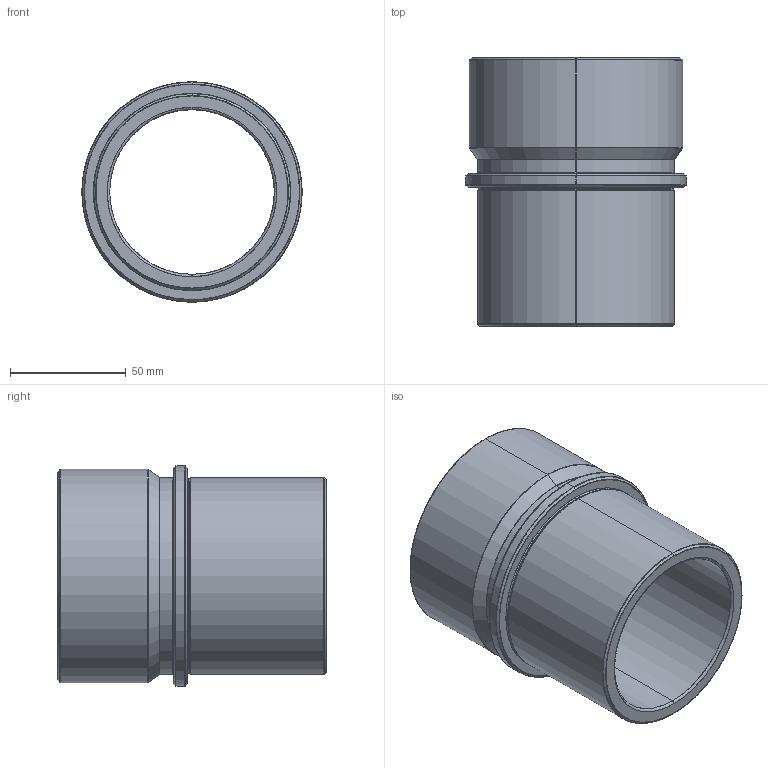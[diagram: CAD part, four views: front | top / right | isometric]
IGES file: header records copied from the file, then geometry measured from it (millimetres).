
Start section: SolidWorks IGES file using analytic representation for surfaces
Global section: file name: D:\Belgelerim\solid çalýþmalarým\D27 ÝGS 3\D27_63X116.IGS; native system: SolidWorks 2008; preprocessor: SolidWorks 2008; author: kalite-mail; date: 080707.141332; units: millimetre
Bounding box: 95 x 116 x 95 mm (x, y, z)
Surface area: 64691.6 mm2 (no closed solid volume)
Topology: 0 solids, 0 shells, 56 faces, 720 edges, 720 vertices
Faces by surface type: bspline 34, revolution 22
